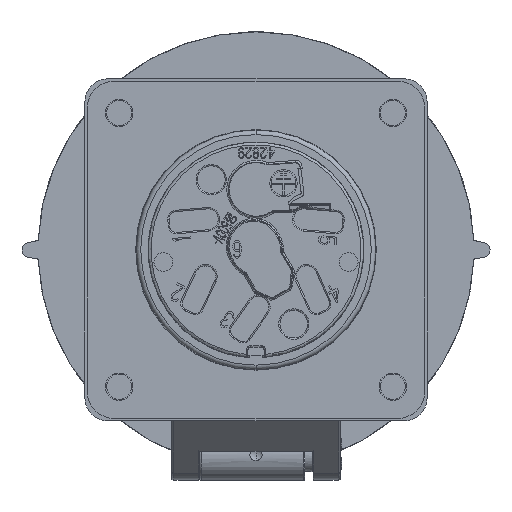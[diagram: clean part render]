
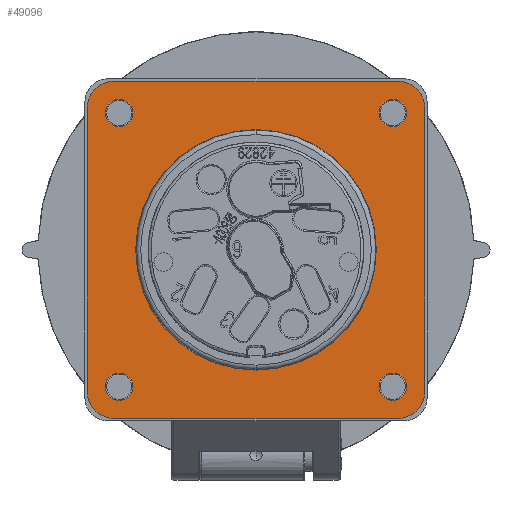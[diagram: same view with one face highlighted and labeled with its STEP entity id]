
A CAD part, front view. The second image highlights one B-rep face of the part: STEP entity #49096.
In plain terms, the highlighted planar face has unit normal (0, -1, 0).
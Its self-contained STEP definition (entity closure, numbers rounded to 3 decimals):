
#10143=CARTESIAN_POINT('',(31.,-2.,31.));
#10144=DIRECTION('',(0.,1.,0.));
#10145=DIRECTION('',(0.,0.,1.));
#10146=AXIS2_PLACEMENT_3D('',#10143,#10144,#10145);
#10148=DIRECTION('',(0.,0.,-1.));
#10149=VECTOR('',#10148,62.);
#10150=CARTESIAN_POINT('',(37.,-2.,31.));
#10151=LINE('4936',#10150,#10149);
#10152=CARTESIAN_POINT('',(31.,-2.,-31.));
#10153=DIRECTION('',(0.,1.,0.));
#10154=DIRECTION('',(1.,0.,0.));
#10155=AXIS2_PLACEMENT_3D('',#10152,#10153,#10154);
#10157=DIRECTION('',(-1.,0.,0.));
#10158=VECTOR('',#10157,62.);
#10159=CARTESIAN_POINT('',(31.,-2.,-37.));
#10160=LINE('4938',#10159,#10158);
#10161=CARTESIAN_POINT('',(-31.,-2.,-31.));
#10162=DIRECTION('',(0.,1.,0.));
#10163=DIRECTION('',(0.,0.,-1.));
#10164=AXIS2_PLACEMENT_3D('',#10161,#10162,#10163);
#10166=DIRECTION('',(0.,0.,1.));
#10167=VECTOR('',#10166,62.);
#10168=CARTESIAN_POINT('',(-37.,-2.,-31.));
#10169=LINE('4940',#10168,#10167);
#10170=CARTESIAN_POINT('',(-31.,-2.,31.));
#10171=DIRECTION('',(0.,1.,0.));
#10172=DIRECTION('',(-1.,0.,0.));
#10173=AXIS2_PLACEMENT_3D('',#10170,#10171,#10172);
#10175=DIRECTION('',(1.,0.,0.));
#10176=VECTOR('',#10175,62.);
#10177=CARTESIAN_POINT('',(-31.,-2.,37.));
#10178=LINE('4942',#10177,#10176);
#10179=CARTESIAN_POINT('',(30.,-2.,30.));
#10180=DIRECTION('',(0.,-1.,0.));
#10181=DIRECTION('',(-1.,0.,0.));
#10182=AXIS2_PLACEMENT_3D('',#10179,#10180,#10181);
#10184=CARTESIAN_POINT('',(30.,-2.,30.));
#10185=DIRECTION('',(0.,-1.,0.));
#10186=DIRECTION('',(1.,0.,0.));
#10187=AXIS2_PLACEMENT_3D('',#10184,#10185,#10186);
#10189=CARTESIAN_POINT('',(-30.,-2.,30.));
#10190=DIRECTION('',(0.,-1.,0.));
#10191=DIRECTION('',(-1.,0.,0.));
#10192=AXIS2_PLACEMENT_3D('',#10189,#10190,#10191);
#10194=CARTESIAN_POINT('',(-30.,-2.,30.));
#10195=DIRECTION('',(0.,-1.,0.));
#10196=DIRECTION('',(1.,0.,0.));
#10197=AXIS2_PLACEMENT_3D('',#10194,#10195,#10196);
#10199=CARTESIAN_POINT('',(30.,-2.,-30.));
#10200=DIRECTION('',(0.,-1.,0.));
#10201=DIRECTION('',(-1.,0.,0.));
#10202=AXIS2_PLACEMENT_3D('',#10199,#10200,#10201);
#10204=CARTESIAN_POINT('',(30.,-2.,-30.));
#10205=DIRECTION('',(0.,-1.,0.));
#10206=DIRECTION('',(1.,0.,0.));
#10207=AXIS2_PLACEMENT_3D('',#10204,#10205,#10206);
#10209=CARTESIAN_POINT('',(-30.,-2.,-30.));
#10210=DIRECTION('',(0.,-1.,0.));
#10211=DIRECTION('',(-1.,0.,0.));
#10212=AXIS2_PLACEMENT_3D('',#10209,#10210,#10211);
#10214=CARTESIAN_POINT('',(-30.,-2.,-30.));
#10215=DIRECTION('',(0.,-1.,0.));
#10216=DIRECTION('',(1.,0.,0.));
#10217=AXIS2_PLACEMENT_3D('',#10214,#10215,#10216);
#10359=CARTESIAN_POINT('',(0.,-2.,0.));
#10360=DIRECTION('',(0.,1.,0.));
#10361=DIRECTION('',(0.,0.,1.));
#10362=AXIS2_PLACEMENT_3D('',#10359,#10360,#10361);
#10364=CARTESIAN_POINT('',(0.,-2.,0.));
#10365=DIRECTION('',(0.,1.,0.));
#10366=DIRECTION('',(0.,0.,-1.));
#10367=AXIS2_PLACEMENT_3D('',#10364,#10365,#10366);
#26968=CARTESIAN_POINT('',(27.,-2.,30.));
#26969=CARTESIAN_POINT('',(33.,-2.,30.));
#26970=VERTEX_POINT('',#26968);
#26971=VERTEX_POINT('',#26969);
#26972=CARTESIAN_POINT('',(-33.,-2.,30.));
#26973=CARTESIAN_POINT('',(-27.,-2.,30.));
#26974=VERTEX_POINT('',#26972);
#26975=VERTEX_POINT('',#26973);
#26976=CARTESIAN_POINT('',(27.,-2.,-30.));
#26977=CARTESIAN_POINT('',(33.,-2.,-30.));
#26978=VERTEX_POINT('',#26976);
#26979=VERTEX_POINT('',#26977);
#26980=CARTESIAN_POINT('',(-33.,-2.,-30.));
#26981=CARTESIAN_POINT('',(-27.,-2.,-30.));
#26982=VERTEX_POINT('',#26980);
#26983=VERTEX_POINT('',#26981);
#26984=CARTESIAN_POINT('',(31.,-2.,37.));
#26985=CARTESIAN_POINT('',(37.,-2.,31.));
#26986=VERTEX_POINT('',#26984);
#26987=VERTEX_POINT('',#26985);
#26988=CARTESIAN_POINT('',(37.,-2.,-31.));
#26989=VERTEX_POINT('',#26988);
#26990=CARTESIAN_POINT('',(31.,-2.,-37.));
#26991=VERTEX_POINT('',#26990);
#26992=CARTESIAN_POINT('',(-31.,-2.,-37.));
#26993=VERTEX_POINT('',#26992);
#26994=CARTESIAN_POINT('',(-37.,-2.,-31.));
#26995=VERTEX_POINT('',#26994);
#26996=CARTESIAN_POINT('',(-37.,-2.,31.));
#26997=VERTEX_POINT('',#26996);
#26998=CARTESIAN_POINT('',(-31.,-2.,37.));
#26999=VERTEX_POINT('',#26998);
#27032=CARTESIAN_POINT('',(0.,-2.,26.374));
#27033=CARTESIAN_POINT('',(0.,-2.,-26.374));
#27034=VERTEX_POINT('',#27032);
#27035=VERTEX_POINT('',#27033);
#49045=CARTESIAN_POINT('',(0.,-2.,0.));
#49046=DIRECTION('',(0.,1.,0.));
#49047=DIRECTION('',(-1.,0.,0.));
#49048=AXIS2_PLACEMENT_3D('',#49045,#49046,#49047);
#49049=PLANE('1182',#49048);
#49051=ORIENTED_EDGE('4935',*,*,#49050,.T.);
#49053=ORIENTED_EDGE('4936',*,*,#49052,.T.);
#49055=ORIENTED_EDGE('4937',*,*,#49054,.T.);
#49057=ORIENTED_EDGE('4938',*,*,#49056,.T.);
#49059=ORIENTED_EDGE('4939',*,*,#49058,.T.);
#49061=ORIENTED_EDGE('4940',*,*,#49060,.T.);
#49063=ORIENTED_EDGE('4941',*,*,#49062,.T.);
#49065=ORIENTED_EDGE('4942',*,*,#49064,.T.);
#49066=EDGE_LOOP('1182',(#49051,#49053,#49055,#49057,#49059,#49061,#49063,
#49065));
#49067=FACE_OUTER_BOUND('1182',#49066,.F.);
#49069=ORIENTED_EDGE('4927',*,*,#49068,.T.);
#49071=ORIENTED_EDGE('4928',*,*,#49070,.T.);
#49072=EDGE_LOOP('1182',(#49069,#49071));
#49073=FACE_BOUND('1182',#49072,.F.);
#49075=ORIENTED_EDGE('4929',*,*,#49074,.T.);
#49077=ORIENTED_EDGE('4930',*,*,#49076,.T.);
#49078=EDGE_LOOP('1182',(#49075,#49077));
#49079=FACE_BOUND('1182',#49078,.F.);
#49080=ORIENTED_EDGE('4931',*,*,#49011,.T.);
#49081=ORIENTED_EDGE('4932',*,*,#49032,.T.);
#49082=EDGE_LOOP('1182',(#49080,#49081));
#49083=FACE_BOUND('1182',#49082,.F.);
#49085=ORIENTED_EDGE('4933',*,*,#49084,.T.);
#49087=ORIENTED_EDGE('4934',*,*,#49086,.T.);
#49088=EDGE_LOOP('1182',(#49085,#49087));
#49089=FACE_BOUND('1182',#49088,.F.);
#49091=ORIENTED_EDGE('4959',*,*,#49090,.F.);
#49093=ORIENTED_EDGE('4960',*,*,#49092,.F.);
#49094=EDGE_LOOP('1182',(#49091,#49093));
#49095=FACE_BOUND('1182',#49094,.F.);
#10147=CIRCLE('4935',#10146,6.);
#10156=CIRCLE('4937',#10155,6.);
#10165=CIRCLE('4939',#10164,6.);
#10174=CIRCLE('4941',#10173,6.);
#10183=CIRCLE('4927',#10182,3.);
#10188=CIRCLE('4928',#10187,3.);
#10193=CIRCLE('4929',#10192,3.);
#10198=CIRCLE('4930',#10197,3.);
#10203=CIRCLE('4931',#10202,3.);
#10208=CIRCLE('4932',#10207,3.);
#10213=CIRCLE('4933',#10212,3.);
#10218=CIRCLE('4934',#10217,3.);
#10363=CIRCLE('4959',#10362,26.374);
#10368=CIRCLE('4960',#10367,26.374);
#49011=EDGE_CURVE('4931',#26978,#26979,#10203,.T.);
#49032=EDGE_CURVE('4932',#26979,#26978,#10208,.T.);
#49050=EDGE_CURVE('4935',#26986,#26987,#10147,.T.);
#49052=EDGE_CURVE('4936',#26987,#26989,#10151,.T.);
#49054=EDGE_CURVE('4937',#26989,#26991,#10156,.T.);
#49056=EDGE_CURVE('4938',#26991,#26993,#10160,.T.);
#49058=EDGE_CURVE('4939',#26993,#26995,#10165,.T.);
#49060=EDGE_CURVE('4940',#26995,#26997,#10169,.T.);
#49062=EDGE_CURVE('4941',#26997,#26999,#10174,.T.);
#49064=EDGE_CURVE('4942',#26999,#26986,#10178,.T.);
#49068=EDGE_CURVE('4927',#26970,#26971,#10183,.T.);
#49070=EDGE_CURVE('4928',#26971,#26970,#10188,.T.);
#49074=EDGE_CURVE('4929',#26974,#26975,#10193,.T.);
#49076=EDGE_CURVE('4930',#26975,#26974,#10198,.T.);
#49084=EDGE_CURVE('4933',#26982,#26983,#10213,.T.);
#49086=EDGE_CURVE('4934',#26983,#26982,#10218,.T.);
#49090=EDGE_CURVE('4959',#27034,#27035,#10363,.T.);
#49092=EDGE_CURVE('4960',#27035,#27034,#10368,.T.);
#49096=ADVANCED_FACE('1182',(#49067,#49073,#49079,#49083,#49089,#49095),#49049,
.F.);
